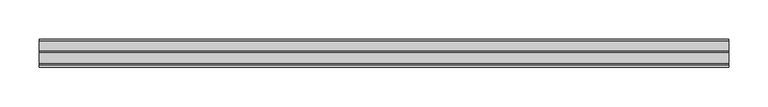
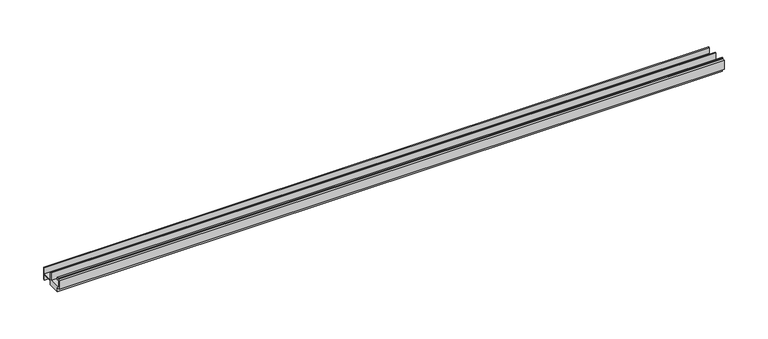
"""IFC4 building model written with IfcOpenShell, lengths in millimetres: proxy geometry, Weiku - Montante - Acabamento inferior porta de giro : Weiku - Montante - Acabamento inferior porta de giro."""

from ifc_helpers import new_model, si_unit, frame, origin, place, context, project, spatial, polyline, outline, extrude, source, transform, mapped, element, save


def generic_models_b0c1a315(model_context):
    return source(origin(), model_context, "Body", "SweptSolid", [
        extrude(outline(polyline([(-31.2, -9.5775345), (-35.5, -9.5775345), (-35.5, 2.9224655), (-32.4000182, 2.9224655), (-32.4000182, 4.4224655), (-30.9000182, 4.4224655), (-30.9000182, 1.4224655), (-34.0, 1.4224655), (-34.0, -8.0775345), (-16.7, -8.0775345), (-16.7, 2.2224655), (-15.2, 2.2224655), (-15.2, -8.0775345), (-1.5, -8.0775345), (-1.5, 0.0), (0.0, 0.0), (0.0, -17.0775345), (-1.5, -17.0775345), (-1.5, -9.5775345), (-15.2, -9.5775345), (-15.2, -15.0775345), (-31.2, -15.0775345), (-31.2, -9.5775345)])), frame((-438.0000338, 0.0, 0.0), z_axis=(1.0, 0.0, 0.0), x_axis=(0.0, 1.0, 0.0)), (0.0, 0.0, 1.0), 876.0000676),
    ])


if __name__ == "__main__":
    model = new_model("IFC4")
    model_context = context("Model", 3, world=origin())
    ifc_project = project(units=[si_unit("LENGTHUNIT", "METRE", prefix="MILLI")], contexts=[model_context])
    site = spatial("IfcSite", under=ifc_project)
    building = spatial("IfcBuilding", under=site)
    placement = place(None, origin())
    generic_models_shape = generic_models_b0c1a315(model_context)
    element("IfcBuildingElementProxy", 1, Name="Weiku - Montante - Acabamento inferior porta de giro : Weiku - Montante - Acabamento inferior porta de giro", ObjectType="Weiku - Montante - Acabamento inferior porta de giro : Weiku - Montante - Acabamento inferior porta de giro", at=placement, inside=building, context=model_context, shape_type="MappedRepresentation", body=[
        mapped(generic_models_shape, transform((0.0, 0.0, 0.0), x_axis=(1.0, 0.0, 0.0), y_axis=(0.0, 1.0, 0.0), z_axis=(0.0, 0.0, 1.0))),
    ])
    save(model, "model.ifc")
